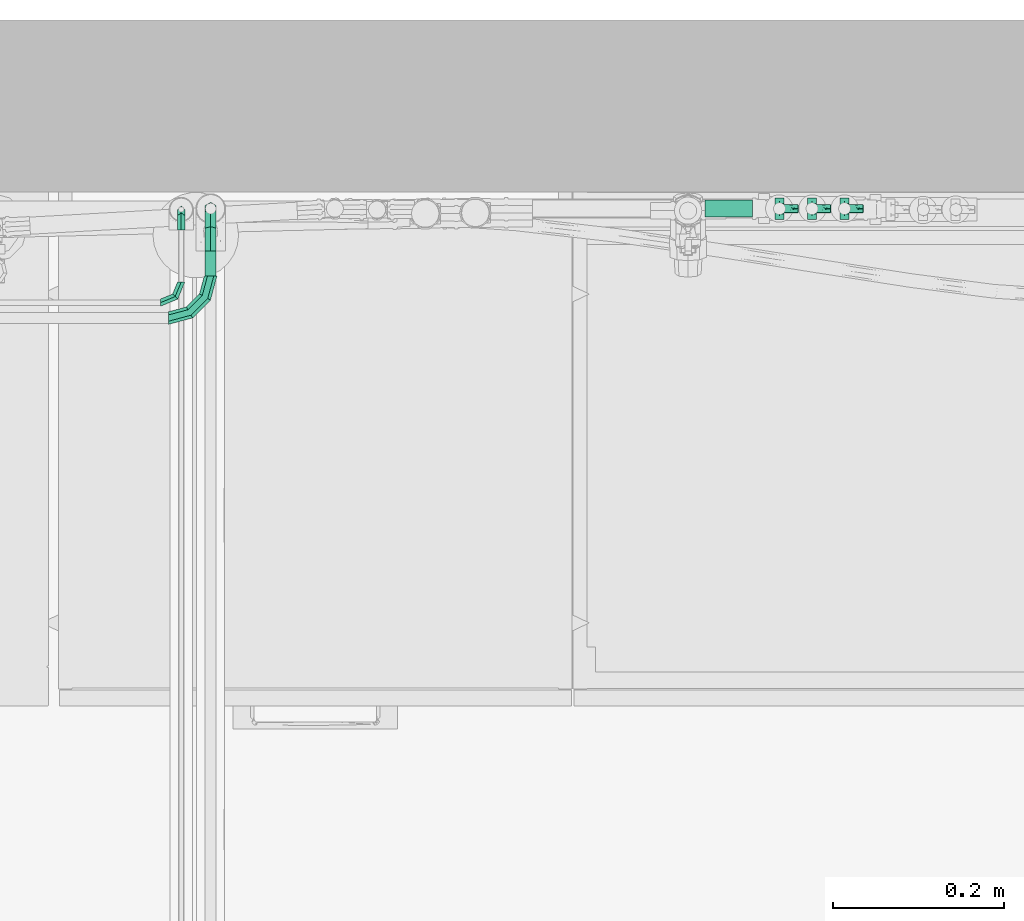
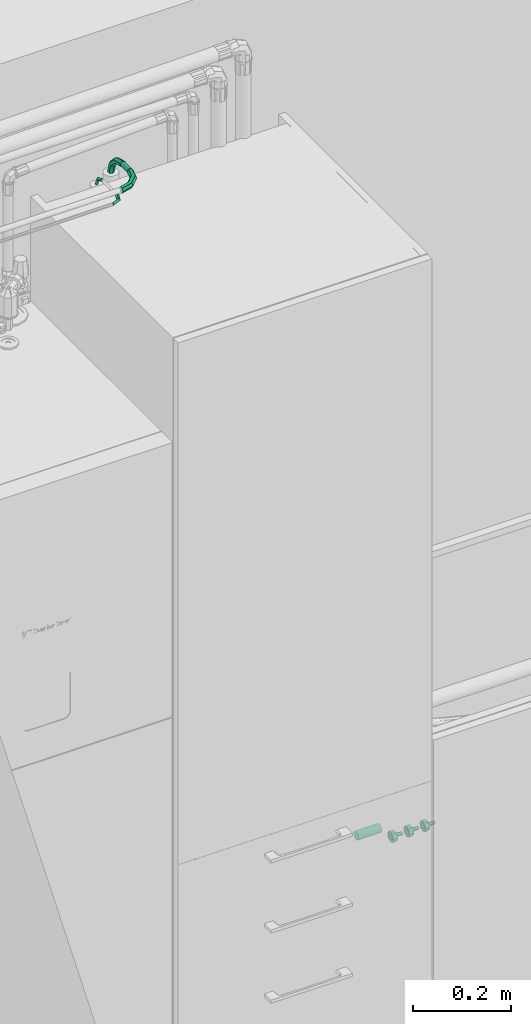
# One storey, part 22 of 30: 7 flow fittings, 2 flow segments.
"""IFC2X3 building model written with IfcOpenShell, lengths in metres."""

from ifc_helpers import new_model, entity, si_unit, converted_unit, derived_unit, direction, frame, origin, origin_2d_with_axis, place, context, subcontext, project, spatial, circle, extrude, faceted_brep, source, transform, mapped, material, type_object, type_shapes, element, save


model = new_model("IFC2X3")

# Units and contexts
model_context = context("Model", 3, precision=1e-05, world=origin(), true_north=direction((6.123031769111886e-17, 1.0)))
body_context = subcontext(model_context, "Body", "Model", "MODEL_VIEW")
ifc_project = project(units=[si_unit("LENGTHUNIT", "METRE"), si_unit("AREAUNIT", "SQUARE_METRE"), si_unit("VOLUMEUNIT", "CUBIC_METRE"), converted_unit("PLANEANGLEUNIT", "DEGREE", entity("IfcPlaneAngleMeasure", 0.017453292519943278), si_unit("PLANEANGLEUNIT", "RADIAN"), dimensions=[0, 0, 0, 0, 0, 0, 0]), si_unit("MASSUNIT", "GRAM", prefix="KILO"), derived_unit("MASSDENSITYUNIT", [(si_unit("MASSUNIT", "GRAM", prefix="KILO"), 1), (si_unit("LENGTHUNIT", "METRE"), -3)]), derived_unit("IONCONCENTRATIONUNIT", [(si_unit("MASSUNIT", "GRAM", prefix="KILO"), 1), (si_unit("LENGTHUNIT", "METRE"), -3)]), derived_unit("MOMENTOFINERTIAUNIT", [(si_unit("LENGTHUNIT", "METRE"), 4)]), si_unit("TIMEUNIT", "SECOND"), si_unit("FREQUENCYUNIT", "HERTZ"), si_unit("THERMODYNAMICTEMPERATUREUNIT", "DEGREE_CELSIUS"), derived_unit("THERMALTRANSMITTANCEUNIT", [(si_unit("MASSUNIT", "GRAM", prefix="KILO"), 1), (si_unit("THERMODYNAMICTEMPERATUREUNIT", "KELVIN"), -1), (si_unit("TIMEUNIT", "SECOND"), -3)]), derived_unit("THERMALCONDUCTANCEUNIT", [(si_unit("MASSUNIT", "GRAM", prefix="KILO"), 1), (si_unit("THERMODYNAMICTEMPERATUREUNIT", "KELVIN"), -1), (si_unit("TIMEUNIT", "SECOND"), -3), (si_unit("LENGTHUNIT", "METRE"), 1)]), derived_unit("VOLUMETRICFLOWRATEUNIT", [(si_unit("LENGTHUNIT", "METRE", prefix="DECI"), 3), (si_unit("TIMEUNIT", "SECOND"), -1)]), derived_unit("MASSFLOWRATEUNIT", [(si_unit("MASSUNIT", "GRAM", prefix="KILO"), 1), (si_unit("TIMEUNIT", "SECOND"), -1)]), derived_unit("ROTATIONALFREQUENCYUNIT", [(si_unit("TIMEUNIT", "SECOND"), -1)]), si_unit("ELECTRICCURRENTUNIT", "AMPERE"), si_unit("ELECTRICVOLTAGEUNIT", "VOLT"), si_unit("POWERUNIT", "WATT"), si_unit("FORCEUNIT", "NEWTON", prefix="KILO"), si_unit("ILLUMINANCEUNIT", "LUX"), si_unit("LUMINOUSFLUXUNIT", "LUMEN"), si_unit("LUMINOUSINTENSITYUNIT", "CANDELA"), si_unit("ENERGYUNIT", "JOULE"), derived_unit("USERDEFINED", [(si_unit("MASSUNIT", "GRAM", prefix="KILO"), -1), (si_unit("LENGTHUNIT", "METRE"), -2), (si_unit("TIMEUNIT", "SECOND"), 3), (si_unit("LUMINOUSFLUXUNIT", "LUMEN"), 1)]), derived_unit("USERDEFINED", [(si_unit("MASSUNIT", "GRAM", prefix="KILO"), 1), (si_unit("TIMEUNIT", "SECOND"), -3), (si_unit("LENGTHUNIT", "METRE"), 3), (si_unit("ELECTRICCURRENTUNIT", "AMPERE"), -2)]), derived_unit("SOUNDPOWERUNIT", [(si_unit("MASSUNIT", "GRAM", prefix="KILO"), 1), (si_unit("TIMEUNIT", "SECOND"), -3), (si_unit("LENGTHUNIT", "METRE"), 2)]), derived_unit("SOUNDPRESSUREUNIT", [(si_unit("MASSUNIT", "GRAM", prefix="KILO"), 1), (si_unit("LENGTHUNIT", "METRE"), -1), (si_unit("TIMEUNIT", "SECOND"), -2)]), derived_unit("LINEARVELOCITYUNIT", [(si_unit("LENGTHUNIT", "METRE"), 1), (si_unit("TIMEUNIT", "SECOND"), -1)]), si_unit("PRESSUREUNIT", "PASCAL"), derived_unit("USERDEFINED", [(si_unit("MASSUNIT", "GRAM", prefix="KILO"), 1), (si_unit("LENGTHUNIT", "METRE"), -2), (si_unit("TIMEUNIT", "SECOND"), -2)]), derived_unit("LINEARFORCEUNIT", [(si_unit("MASSUNIT", "GRAM", prefix="KILO"), 1), (si_unit("TIMEUNIT", "SECOND"), -2)]), derived_unit("PLANARFORCEUNIT", [(si_unit("MASSUNIT", "GRAM", prefix="KILO"), 1), (si_unit("LENGTHUNIT", "METRE"), -1), (si_unit("TIMEUNIT", "SECOND"), -2)]), derived_unit("SPECIFICHEATCAPACITYUNIT", [(si_unit("THERMODYNAMICTEMPERATUREUNIT", "KELVIN"), -1), (si_unit("LENGTHUNIT", "METRE"), 2), (si_unit("TIMEUNIT", "SECOND"), -2)]), derived_unit("HEATFLUXDENSITYUNIT", [(si_unit("MASSUNIT", "GRAM", prefix="KILO"), 1), (si_unit("TIMEUNIT", "SECOND"), -3)]), derived_unit("HEATINGVALUEUNIT", [(si_unit("LENGTHUNIT", "METRE"), 2), (si_unit("TIMEUNIT", "SECOND"), -2)]), derived_unit("VAPORPERMEABILITYUNIT", [(si_unit("LENGTHUNIT", "METRE"), -1), (si_unit("TIMEUNIT", "SECOND"), 1)]), derived_unit("DYNAMICVISCOSITYUNIT", [(si_unit("MASSUNIT", "GRAM", prefix="KILO"), 1), (si_unit("TIMEUNIT", "SECOND"), -1), (si_unit("LENGTHUNIT", "METRE"), -1)]), derived_unit("THERMALEXPANSIONCOEFFICIENTUNIT", [(si_unit("THERMODYNAMICTEMPERATUREUNIT", "KELVIN"), -1)]), derived_unit("MODULUSOFELASTICITYUNIT", [(si_unit("MASSUNIT", "GRAM", prefix="KILO"), 1), (si_unit("LENGTHUNIT", "METRE"), -1), (si_unit("TIMEUNIT", "SECOND"), -2)]), derived_unit("ISOTHERMALMOISTURECAPACITYUNIT", [(si_unit("MASSUNIT", "GRAM", prefix="KILO"), -1), (si_unit("LENGTHUNIT", "METRE"), 3)]), derived_unit("MOISTUREDIFFUSIVITYUNIT", [(si_unit("TIMEUNIT", "SECOND"), -1), (si_unit("LENGTHUNIT", "METRE"), 2)]), derived_unit("MASSPERLENGTHUNIT", [(si_unit("MASSUNIT", "GRAM", prefix="KILO"), 1), (si_unit("LENGTHUNIT", "METRE"), -1)]), derived_unit("THERMALRESISTANCEUNIT", [(si_unit("MASSUNIT", "GRAM", prefix="KILO"), -1), (si_unit("TIMEUNIT", "SECOND"), 3), (si_unit("THERMODYNAMICTEMPERATUREUNIT", "KELVIN"), 1)]), derived_unit("ACCELERATIONUNIT", [(si_unit("LENGTHUNIT", "METRE"), 1), (si_unit("TIMEUNIT", "SECOND"), -2)]), derived_unit("ANGULARVELOCITYUNIT", [(si_unit("TIMEUNIT", "SECOND"), -1), (si_unit("PLANEANGLEUNIT", "RADIAN"), 1)]), derived_unit("LINEARSTIFFNESSUNIT", [(si_unit("MASSUNIT", "GRAM", prefix="KILO"), 1), (si_unit("TIMEUNIT", "SECOND"), -2)]), derived_unit("WARPINGCONSTANTUNIT", [(si_unit("LENGTHUNIT", "METRE"), 6)]), derived_unit("LINEARMOMENTUNIT", [(si_unit("MASSUNIT", "GRAM", prefix="KILO"), 1), (si_unit("LENGTHUNIT", "METRE"), 1), (si_unit("TIMEUNIT", "SECOND"), -2)]), derived_unit("TORQUEUNIT", [(si_unit("MASSUNIT", "GRAM", prefix="KILO"), 1), (si_unit("LENGTHUNIT", "METRE"), 2), (si_unit("TIMEUNIT", "SECOND"), -2)])], contexts=[model_context])

# Site, building, storey
site_placement = place(None, origin())
site = spatial("IfcSite", under=ifc_project, at=site_placement, Name="Default", CompositionType="ELEMENT")
building_placement = place(site_placement, origin())
building = spatial("IfcBuilding", under=site, at=building_placement, CompositionType="ELEMENT")
storey_placement = place(building_placement, origin())
storey = spatial("IfcBuildingStorey", under=building, at=storey_placement, Name="Niveau 0", CompositionType="ELEMENT", Elevation=-1.949160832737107e-14)

# Flow fittings
ifc_material_1 = material(Name="Cuivre")
pipe_fitting_type_1 = type_object("IfcPipeFittingType", Name="Coude - tube frigo:Standard", PredefinedType="NOTDEFINED", material=ifc_material_1)
shared_shape_1 = source(origin(), body_context, "Body", "Brep", [
    faceted_brep([(-0.004088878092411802, 0.004088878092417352, 0.0), (-0.007058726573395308, 0.007058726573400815, -0.004200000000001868), (0.0, 0.024099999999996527, -0.004200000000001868), (0.0042000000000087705, 0.024099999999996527, 0.0), (-0.010028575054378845, 0.010028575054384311, 0.0), (-0.00419999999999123, 0.024099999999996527, 0.0), (-0.00705872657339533, 0.007058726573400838, 0.004199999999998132), (0.0, 0.024099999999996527, 0.004199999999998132), (-0.024099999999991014, -0.004200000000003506, 0.0), (-0.024099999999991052, 0.0, -0.004200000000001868), (-0.02409999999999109, 0.0041999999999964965, 0.0), (-0.024099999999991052, 0.0, 0.004199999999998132)], [[[0, 1, 2, 3]], [[1, 4, 5, 2]], [[4, 6, 7, 5]], [[6, 0, 3, 7]], [[8, 9, 1, 0]], [[9, 10, 4, 1]], [[10, 11, 6, 4]], [[11, 8, 0, 6]], [[3, 2, 5, 7]], [[11, 10, 9, 8]]]),
])
type_shapes(pipe_fitting_type_1, [shared_shape_1])
flow_fitting_1_placement = place(storey_placement, frame((-19.863164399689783, 2.7395264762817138, 2.162088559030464)))
element("IfcFlowFitting", 1, at=flow_fitting_1_placement, inside=storey, type_object=pipe_fitting_type_1, material=ifc_material_1, Name="Coude - tube frigo:Standard", ObjectType="Coude - tube frigo:Standard", context=body_context, shape_type="MappedRepresentation", body=[
    mapped(shared_shape_1, transform((0.0, 0.0, 0.0), scale=1.0)),
])
flow_fitting_2_placement = place(storey_placement, frame((-19.86316439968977, 2.848276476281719, 2.16208855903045), z_axis=(-1.0, 0.0, 0.0), x_axis=(0.0, 1.0, 0.0)))
element("IfcFlowFitting", 2, at=flow_fitting_2_placement, inside=storey, type_object=pipe_fitting_type_1, material=ifc_material_1, Name="Coude - tube frigo:Standard", ObjectType="Coude - tube frigo:Standard", context=body_context, shape_type="MappedRepresentation", body=[
    mapped(shared_shape_1, transform((0.0, 0.0, 0.0), scale=1.0)),
])

# Flow segments
pipe_segment_type_1 = type_object("IfcPipeSegmentType", Name="Canalisation:Cuivre Frigo", PredefinedType="NOTDEFINED")
flow_segment_1_placement = place(storey_placement, origin())
element("IfcFlowSegment", 3, at=flow_segment_1_placement, inside=storey, type_object=pipe_segment_type_1, Name="Canalisation:Cuivre Frigo", ObjectType="Canalisation:Cuivre Frigo", context=body_context, shape_type="SweptSolid", body=[
    extrude(circle(Radius=0.00635, at=origin_2d_with_axis()), frame((-19.82878943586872, 2.7707259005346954, 2.2051379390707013), z_axis=(0.0, 1.0, 0.0), x_axis=(-1.0, 0.0, 0.0)), (0.0, 0.0, 1.0), 0.02925057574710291),
])
pipe_segment_type_2 = type_object("IfcPipeSegmentType", Name="Canalisation:COMAP MULTISKIN - SKINPRESS PPSU", PredefinedType="NOTDEFINED")
flow_segment_2_placement = place(storey_placement, origin())
element("IfcFlowSegment", 4, at=flow_segment_2_placement, inside=storey, type_object=pipe_segment_type_2, Name="Canalisation:COMAP MULTISKIN - SKINPRESS PPSU", ObjectType="Canalisation:COMAP MULTISKIN - SKINPRESS PPSU", context=body_context, shape_type="SweptSolid", body=[
    extrude(circle(Radius=0.01, at=origin_2d_with_axis()), frame((-19.25124886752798, 2.8492961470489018, 0.3000000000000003), z_axis=(1.0, 0.0, 0.0), x_axis=(0.0, -1.0, 0.0)), (0.0, 0.0, 1.0), 0.055207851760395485),
])

# Flow fittings
ifc_material_2 = material(Name="Color RGB 202-154-058")
pipe_fitting_type_2 = type_object("IfcPipeFittingType", Name="SA_Connection Piece_MEPcontent_Valsir_Pexal BRASS_Kit with Nut_Shared:14 mm x 2 mm-1/2''", PredefinedType="NOTDEFINED", material=ifc_material_2)
shared_shape_2 = source(origin(), body_context, "Body", "Brep", [
    faceted_brep([(0.0, 0.012144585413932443, -0.0032541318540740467), (0.0, 0.0125345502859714, 0.0), (0.0, 0.006267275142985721, -0.010855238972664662), (0.0, 0.008890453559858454, -0.008890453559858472), (0.0, 0.010888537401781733, -0.00628650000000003), (0.0, 0.003882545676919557, 0.0119585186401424), (0.0, 0.0013113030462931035, 0.012504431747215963), (0.0, -0.0013169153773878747, 0.012503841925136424), (0.0, -0.0038867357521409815, 0.01195715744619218), (0.0, -0.0062672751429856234, 0.010855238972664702), (0.0, 0.006267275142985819, 0.010855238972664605), (0.0, -0.006267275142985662, -0.010855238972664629), (0.0, -0.012573, 0.0), (0.0, -0.01229757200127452, -0.002617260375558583), (0.0, -0.011484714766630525, -0.005116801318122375), (0.0, -0.010170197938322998, -0.007392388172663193), (0.0, -0.008411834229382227, -0.009344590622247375), (0.0, 0.00889045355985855, 0.008890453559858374), (0.0, 0.012144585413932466, 0.0032541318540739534), (0.0, 0.01088853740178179, 0.006286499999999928), (0.0, -0.0038867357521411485, -0.011957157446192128), (0.0, -0.001316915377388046, -0.012503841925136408), (0.0, 0.0013113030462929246, -0.012504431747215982), (0.0, 0.003882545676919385, -0.011958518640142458), (0.0, -0.008411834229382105, 0.009344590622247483), (0.0, -0.010170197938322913, 0.007392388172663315), (0.0, -0.01148471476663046, 0.005116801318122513), (0.0, -0.01229757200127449, 0.0026172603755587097), (0.004999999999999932, 0.006267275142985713, -0.010855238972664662), (0.004999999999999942, 0.012534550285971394, 0.0), (0.004999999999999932, 0.0062672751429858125, 0.010855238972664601), (0.00499999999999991, -0.006267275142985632, 0.010855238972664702), (0.0049999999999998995, -0.01253455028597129, 0.0), (0.00499999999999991, -0.006267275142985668, -0.010855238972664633), (0.0, -0.009223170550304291, 0.005324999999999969), (0.0, -0.00753068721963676, 0.007530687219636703), (0.0, -0.008149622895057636, 0.004705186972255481), (0.0, -0.009089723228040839, 0.0024355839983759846), (0.0, -0.010287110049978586, 0.0027564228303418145), (0.0, -0.006654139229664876, 0.006654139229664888), (0.0, -0.005325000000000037, 0.00922317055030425), (0.0, -0.004705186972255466, 0.008149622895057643), (0.0, -0.0024355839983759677, 0.009089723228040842), (0.0, -0.0027564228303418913, 0.010287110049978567), (0.0, 0.0, 0.009410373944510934), (0.0, 0.0, 0.010650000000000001), (0.0, 0.0024355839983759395, 0.009089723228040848), (0.0, 0.002756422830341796, 0.010287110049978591), (0.0, 0.004705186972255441, 0.008149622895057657), (0.0, 0.005324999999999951, 0.0092231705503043), (0.0, 0.006654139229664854, 0.006654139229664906), (0.0, 0.007530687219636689, 0.0075306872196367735), (0.0, 0.008149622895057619, 0.0047051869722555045), (0.0, 0.00922317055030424, 0.0053250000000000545), (0.0, 0.009089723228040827, 0.0024355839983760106), (0.0, 0.01028711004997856, 0.0027564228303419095), (0.0, 0.009410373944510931, 0.0), (0.0, 0.010649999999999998, 0.0), (0.0, 0.00908972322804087, -0.002435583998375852), (0.0, 0.010287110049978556, -0.0027564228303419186), (0.0, 0.008149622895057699, -0.004705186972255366), (0.0, 0.009223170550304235, -0.005325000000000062), (0.0, 0.006654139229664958, -0.006654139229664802), (0.0, 0.007530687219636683, -0.00753068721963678), (0.0, 0.004705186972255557, -0.00814962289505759), (0.0, 0.0053249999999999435, -0.009223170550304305), (0.0, 0.0027564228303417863, -0.010287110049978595), (0.0, 0.002435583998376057, -0.009089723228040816), (0.0, 0.0, -0.010650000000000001), (0.0, 0.0, -0.009410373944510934), (0.0, -0.0027564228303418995, -0.010287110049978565), (0.0, -0.0024355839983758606, -0.00908972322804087), (0.0, -0.005325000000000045, -0.009223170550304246), (0.0, -0.004705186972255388, -0.008149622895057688), (0.0, -0.0075306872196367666, -0.007530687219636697), (0.0, -0.006654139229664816, -0.006654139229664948), (0.0, -0.009223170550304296, -0.005324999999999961), (0.0, -0.008149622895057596, -0.004705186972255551), (0.0, -0.01028711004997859, -0.0027564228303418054), (0.0, -0.009089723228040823, -0.002435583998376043), (0.0, -0.010650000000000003, 0.0), (0.0, -0.009410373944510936, 0.0), (0.004999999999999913, -0.004156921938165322, -0.002400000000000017), (0.0049999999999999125, -0.004636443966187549, -0.001242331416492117), (0.0049999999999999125, -0.004800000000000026, 0.0), (0.0049999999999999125, -0.004636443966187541, 0.0012423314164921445), (0.004999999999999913, -0.0041569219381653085, 0.0024000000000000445), (0.004999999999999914, -0.003394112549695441, -0.0033941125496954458), (0.004999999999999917, -0.002400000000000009, -0.004156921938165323), (0.004999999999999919, -0.0012423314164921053, -0.004636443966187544), (0.004999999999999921, 0.0, -0.004800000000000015), (0.004999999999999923, 0.001242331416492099, -0.004636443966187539), (0.004999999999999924, 0.002400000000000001, -0.0041569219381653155), (0.004999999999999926, 0.00339411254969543, -0.003394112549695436), (0.004999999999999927, 0.0041569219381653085, -0.0024000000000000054), (0.004999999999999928, 0.004636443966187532, -0.0012423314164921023), (0.004999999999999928, 0.004800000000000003, 0.0), (0.004999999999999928, 0.004636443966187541, 0.0012423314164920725), (0.004999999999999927, 0.004156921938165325, 0.002399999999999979), (0.004999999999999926, 0.003394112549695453, 0.003394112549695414), (0.004999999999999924, 0.002400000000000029, 0.004156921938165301), (0.004999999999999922, 0.0012423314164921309, 0.004636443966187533), (0.0049999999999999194, 0.0, 0.004800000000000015), (0.004999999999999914, -0.003394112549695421, 0.003394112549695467), (0.004999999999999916, -0.002399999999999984, 0.004156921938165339), (0.004999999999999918, -0.001242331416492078, 0.004636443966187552), (0.021999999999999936, 0.0, 0.0), (0.021999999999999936, -0.004225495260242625, 0.0), (0.021999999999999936, -0.002112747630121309, -0.0021127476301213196), (0.021999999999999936, 0.0, -0.004225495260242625), (0.021999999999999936, 0.001462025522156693, -0.0027634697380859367), (0.021999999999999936, 0.004225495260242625, 0.0), (0.02199999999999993, 0.002112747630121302, 0.0021127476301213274), (0.021999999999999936, -0.0014620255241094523, 0.0027634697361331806), (0.021999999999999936, 0.0, 0.004225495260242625), (0.021425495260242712, 0.004800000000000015, 0.0), (0.021425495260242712, 0.002400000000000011, -0.0024000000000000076), (0.021425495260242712, 0.0, -0.004800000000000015), (0.021425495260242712, -0.0024000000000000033, -0.002400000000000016), (0.021425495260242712, -0.004800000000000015, 0.0), (0.021425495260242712, -0.0024000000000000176, 0.0024000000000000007), (0.021425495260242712, 0.0, 0.004800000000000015), (0.021425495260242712, 0.0023999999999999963, 0.0024000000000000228), (-0.0017731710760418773, 0.009410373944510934, 0.0), (-0.0017731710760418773, 0.004705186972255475, -0.008149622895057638), (-0.0017731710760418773, -0.004705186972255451, -0.008149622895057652), (-0.0017731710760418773, -0.009410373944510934, 0.0), (-0.0017731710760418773, -0.004705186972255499, 0.008149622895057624), (-0.0017731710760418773, 0.004705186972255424, 0.008149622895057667), (-0.005500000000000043, -0.0031499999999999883, -0.00545596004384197), (-0.005500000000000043, -0.0063, 0.0), (-0.005500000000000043, 0.0, 0.0), (-0.005500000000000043, 0.0031500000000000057, -0.00545596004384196), (-0.005500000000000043, -0.003150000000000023, 0.005455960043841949), (-0.005500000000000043, 0.00314999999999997, 0.005455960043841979), (-0.005500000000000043, 0.0063, 0.0), (-0.005500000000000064, -0.006286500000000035, -0.010888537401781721), (-0.005500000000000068, -0.008890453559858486, -0.00889045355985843), (-0.005500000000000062, -0.005324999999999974, -0.009223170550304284), (-0.005500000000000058, -0.002756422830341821, -0.010287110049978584), (-0.005500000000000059, -0.003254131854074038, -0.012144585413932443), (-0.0055000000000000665, -0.007530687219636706, -0.007530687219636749), (-0.005500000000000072, -0.010888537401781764, -0.006286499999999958), (-0.005500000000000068, -0.00922317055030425, -0.005325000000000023), (-0.005500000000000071, -0.010287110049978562, -0.0027564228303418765), (-0.005500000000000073, -0.012144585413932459, -0.0032541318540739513), (-0.005500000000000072, -0.010649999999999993, 0.0), (-0.005500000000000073, -0.012572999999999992, 0.0), (-0.005500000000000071, -0.010287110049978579, 0.00275642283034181), (-0.005500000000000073, -0.012144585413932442, 0.0032541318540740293), (-0.005500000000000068, -0.009223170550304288, 0.005324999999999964), (-0.005500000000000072, -0.010888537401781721, 0.006286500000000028), (-0.0055000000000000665, -0.007530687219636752, 0.007530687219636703), (-0.005500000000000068, -0.008890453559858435, 0.008890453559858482), (-0.005500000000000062, -0.0053250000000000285, 0.00922317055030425), (-0.005500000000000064, -0.00628649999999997, 0.010888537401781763), (-0.005500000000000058, -0.002756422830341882, 0.010287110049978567), (-0.005500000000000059, -0.003254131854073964, 0.012144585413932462), (-0.0055000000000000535, 0.0, 0.010650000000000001), (-0.0055000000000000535, 0.0, 0.012573), (-0.005500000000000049, 0.002756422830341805, 0.010287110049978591), (-0.005500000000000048, 0.003254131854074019, 0.012144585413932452), (-0.005500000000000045, 0.00532499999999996, 0.0092231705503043), (-0.005500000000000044, 0.00628650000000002, 0.010888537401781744), (-0.005500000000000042, 0.007530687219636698, 0.0075306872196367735), (-0.00550000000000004, 0.008890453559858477, 0.008890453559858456), (-0.005500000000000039, 0.00922317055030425, 0.0053250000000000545), (-0.005500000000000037, 0.010888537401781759, 0.006286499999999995), (-0.005500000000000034, 0.012144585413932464, 0.0032541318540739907), (-0.005500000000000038, 0.010287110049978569, 0.0027564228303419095), (-0.0055000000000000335, 0.01257300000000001, 0.0), (-0.005500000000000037, 0.010650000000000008, 0.0), (-0.005500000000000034, 0.012144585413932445, -0.0032541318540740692), (-0.005500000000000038, 0.010287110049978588, -0.0027564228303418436), (-0.005500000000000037, 0.01088853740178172, -0.0062865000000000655), (-0.005500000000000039, 0.009223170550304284, -0.005324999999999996), (-0.00550000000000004, 0.008890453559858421, -0.008890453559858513), (-0.005500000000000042, 0.007530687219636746, -0.007530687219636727), (-0.005500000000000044, 0.006286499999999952, -0.010888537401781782), (-0.005500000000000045, 0.005325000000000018, -0.009223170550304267), (-0.005500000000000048, 0.0032541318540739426, -0.012144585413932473), (-0.005500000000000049, 0.0027564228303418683, -0.010287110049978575), (-0.0055000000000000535, 0.0, -0.012573), (-0.0055000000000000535, 0.0, -0.010650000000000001), (-0.003958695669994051, 0.0031500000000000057, -0.00545596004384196), (-0.003958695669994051, 0.0063, 0.0), (-0.003958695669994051, -0.0031499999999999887, -0.00545596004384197), (-0.003958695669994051, -0.0063, 0.0), (-0.003958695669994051, -0.0031500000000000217, 0.00545596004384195), (-0.003958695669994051, 0.0031499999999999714, 0.00545596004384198)], [[[0, 1, 2, 3, 4]], [[5, 6, 7, 8, 9, 10]], [[11, 12, 13, 14, 15, 16]], [[17, 10, 1, 18, 19]], [[2, 11, 20, 21, 22, 23]], [[9, 24, 25, 26, 27, 12]], [[28, 2, 1, 29]], [[29, 1, 10, 30]], [[30, 10, 9, 31]], [[31, 9, 12]], [[12, 32, 31]], [[32, 12, 11]], [[11, 33, 32]], [[34, 35, 36]], [[34, 36, 37]], [[37, 38, 34]], [[36, 35, 39]], [[40, 39, 35]], [[41, 39, 40]], [[42, 41, 40]], [[42, 40, 43]], [[42, 43, 44]], [[44, 43, 45]], [[46, 44, 45]], [[46, 45, 47]], [[48, 46, 47]], [[48, 47, 49]], [[50, 48, 49]], [[49, 51, 50]], [[51, 52, 50]], [[51, 53, 52]], [[52, 53, 54]], [[55, 54, 53]], [[54, 55, 56]], [[56, 55, 57]], [[56, 57, 58]], [[58, 57, 59]], [[58, 59, 60]], [[61, 60, 59]], [[61, 62, 60]], [[62, 61, 63]], [[64, 62, 63]], [[65, 64, 63]], [[66, 64, 65]], [[67, 64, 66]], [[67, 66, 68]], [[69, 67, 68]], [[70, 69, 68]], [[70, 71, 69]], [[71, 70, 72]], [[73, 71, 72]], [[73, 72, 74]], [[73, 74, 75]], [[74, 76, 75]], [[75, 76, 77]], [[77, 76, 78]], [[78, 79, 77]], [[80, 79, 78]], [[38, 81, 80]], [[80, 81, 79]], [[38, 37, 81]], [[33, 11, 2, 28]], [[32, 33, 82]], [[32, 82, 83]], [[84, 32, 83]], [[32, 84, 85]], [[86, 32, 85]], [[32, 86, 31]], [[82, 33, 87]], [[88, 87, 33]], [[89, 88, 33]], [[90, 89, 33]], [[33, 28, 90]], [[91, 90, 28]], [[92, 91, 28]], [[93, 92, 28]], [[28, 94, 93]], [[29, 94, 28]], [[95, 94, 29]], [[29, 96, 95]], [[29, 97, 96]], [[97, 29, 98]], [[30, 98, 29]], [[98, 30, 99]], [[100, 99, 30]], [[100, 30, 101]], [[102, 101, 30]], [[102, 30, 31]], [[86, 103, 31]], [[103, 104, 31]], [[104, 105, 31]], [[31, 105, 102]], [[106, 107, 108]], [[106, 108, 109]], [[106, 109, 110]], [[106, 110, 111]], [[106, 111, 112]], [[106, 113, 107]], [[106, 114, 113]], [[106, 112, 114]], [[96, 115, 95]], [[93, 115, 116, 117]], [[115, 94, 95]], [[93, 94, 115]], [[91, 92, 117]], [[93, 117, 92]], [[117, 90, 91]], [[90, 117, 89]], [[117, 87, 88]], [[88, 89, 117]], [[87, 117, 118, 119]], [[82, 87, 119]], [[84, 83, 119]], [[82, 119, 83]], [[84, 119, 85]], [[103, 119, 120, 121]], [[119, 86, 85]], [[103, 86, 119]], [[105, 104, 121]], [[103, 121, 104]], [[121, 102, 105]], [[102, 121, 101]], [[121, 99, 100]], [[100, 101, 121]], [[99, 121, 122, 115]], [[98, 99, 115]], [[96, 97, 115]], [[98, 115, 97]], [[123, 56, 58]], [[58, 60, 123]], [[62, 124, 60]], [[60, 124, 123]], [[124, 62, 64]], [[124, 67, 69]], [[67, 124, 64]], [[125, 69, 71]], [[71, 73, 125]], [[75, 125, 73]], [[125, 77, 126]], [[77, 125, 75]], [[79, 81, 126]], [[79, 126, 77]], [[69, 125, 124]], [[126, 81, 37]], [[37, 36, 126]], [[39, 127, 36]], [[36, 127, 126]], [[127, 39, 41]], [[127, 42, 44]], [[42, 127, 41]], [[128, 44, 46]], [[46, 48, 128]], [[50, 128, 48]], [[128, 52, 123]], [[52, 128, 50]], [[54, 56, 123]], [[54, 123, 52]], [[44, 128, 127]], [[129, 130, 131]], [[131, 132, 129]], [[130, 133, 131]], [[134, 131, 133]], [[131, 134, 135]], [[131, 135, 132]], [[129, 130, 131]], [[131, 132, 129]], [[130, 133, 131]], [[134, 131, 133]], [[131, 134, 135]], [[131, 135, 132]], [[136, 137, 138]], [[136, 138, 139]], [[139, 140, 136]], [[138, 137, 141]], [[142, 141, 137]], [[143, 141, 142]], [[144, 143, 142]], [[144, 142, 145]], [[144, 145, 146]], [[146, 145, 147]], [[148, 146, 147]], [[148, 147, 149]], [[150, 148, 149]], [[150, 149, 151]], [[152, 150, 151]], [[151, 153, 152]], [[153, 154, 152]], [[153, 155, 154]], [[154, 155, 156]], [[157, 156, 155]], [[156, 157, 158]], [[158, 157, 159]], [[158, 159, 160]], [[160, 159, 161]], [[160, 161, 162]], [[163, 162, 161]], [[163, 164, 162]], [[164, 163, 165]], [[166, 164, 165]], [[167, 166, 165]], [[168, 166, 167]], [[169, 166, 168]], [[169, 168, 170]], [[171, 169, 170]], [[172, 171, 170]], [[172, 173, 171]], [[173, 172, 174]], [[175, 173, 174]], [[175, 174, 176]], [[175, 176, 177]], [[176, 178, 177]], [[177, 178, 179]], [[179, 178, 180]], [[180, 181, 179]], [[182, 181, 180]], [[140, 183, 182]], [[182, 183, 181]], [[140, 139, 183]], [[117, 116, 115, 111, 110, 109]], [[118, 117, 109, 108, 107, 119]], [[121, 120, 119, 107, 113, 114]], [[122, 121, 114, 112, 111, 115]], [[123, 124, 184, 185]], [[124, 125, 186, 184]], [[125, 126, 187, 186]], [[126, 127, 188, 187]], [[127, 128, 189, 188]], [[128, 123, 185, 189]], [[185, 184, 132, 135]], [[184, 186, 129, 132]], [[186, 187, 130, 129]], [[187, 188, 133, 130]], [[188, 189, 134, 133]], [[189, 185, 135, 134]], [[57, 171, 173, 59]], [[59, 173, 175, 61]], [[65, 63, 177, 179]], [[175, 177, 63, 61]], [[66, 65, 179, 181]], [[183, 68, 66, 181]], [[70, 139, 138, 72]], [[72, 138, 141, 74]], [[78, 76, 143, 144]], [[141, 143, 76, 74]], [[80, 78, 144, 146]], [[70, 68, 183, 139]], [[80, 146, 148, 38]], [[38, 148, 150, 34]], [[40, 35, 152, 154]], [[150, 152, 35, 34]], [[43, 40, 154, 156]], [[158, 45, 43, 156]], [[47, 160, 162, 49]], [[49, 162, 164, 51]], [[55, 53, 166, 169]], [[164, 166, 53, 51]], [[57, 55, 169, 171]], [[47, 45, 158, 160]], [[168, 1, 170]], [[167, 19, 18, 168]], [[17, 165, 163]], [[163, 161, 5]], [[167, 165, 17, 19]], [[159, 6, 161]], [[18, 1, 168]], [[5, 10, 163]], [[17, 163, 10]], [[6, 5, 161]], [[159, 7, 6]], [[155, 8, 157]], [[153, 24, 155]], [[26, 151, 149]], [[149, 147, 27]], [[153, 151, 25]], [[12, 27, 147]], [[155, 9, 8]], [[8, 7, 157]], [[26, 25, 151]], [[24, 153, 25]], [[24, 9, 155]], [[27, 26, 149]], [[157, 7, 159]], [[145, 13, 147]], [[142, 14, 145]], [[16, 137, 136]], [[136, 140, 20]], [[21, 140, 182]], [[142, 137, 15]], [[21, 20, 140]], [[145, 14, 13]], [[13, 12, 147]], [[11, 16, 136]], [[15, 137, 16]], [[15, 14, 142]], [[20, 11, 136]], [[180, 22, 182]], [[178, 23, 180]], [[3, 176, 174, 4]], [[174, 172, 0, 4]], [[178, 176, 2]], [[170, 0, 172]], [[178, 2, 23]], [[23, 22, 180]], [[2, 176, 3]], [[170, 1, 0]], [[182, 22, 21]]]),
])
type_shapes(pipe_fitting_type_2, [shared_shape_2])
for number, where in (
    (5, (-19.126541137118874, 2.8492264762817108, 0.2685000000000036)),
    (6, (-19.088541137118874, 2.8492264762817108, 0.2685000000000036)),
    (7, (-19.164541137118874, 2.8492264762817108, 0.2685000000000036)),
):
    element("IfcFlowFitting", number, at=place(storey_placement, frame(where)), inside=storey, type_object=pipe_fitting_type_2, material=ifc_material_2, Name="SA_Connection Piece_MEPcontent_Valsir_Pexal BRASS_Kit with Nut_Shared:14 mm x 2 mm-1/2''", ObjectType="SA_Connection Piece_MEPcontent_Valsir_Pexal BRASS_Kit with Nut_Shared:14 mm x 2 mm-1/2''", context=body_context, shape_type="MappedRepresentation", body=[
        mapped(shared_shape_2, transform((0.0, 0.0, 0.0), scale=1.0)),
    ])
pipe_fitting_type_3 = type_object("IfcPipeFittingType", Name="Coude - tube frigo:Standard", PredefinedType="NOTDEFINED", material=ifc_material_1)
shared_shape_3 = source(origin(), body_context, "Body", "Brep", [
    faceted_brep([(-0.00023966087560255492, 0.02097499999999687, 0.0), (-0.003422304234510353, 0.022812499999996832, -0.006365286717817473), (0.003675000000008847, 0.049299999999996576, -0.006365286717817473), (0.0073500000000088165, 0.049299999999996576, 0.0), (-0.009787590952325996, 0.02648749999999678, -0.006365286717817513), (-0.003674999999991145, 0.049299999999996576, -0.006365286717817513), (-0.012970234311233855, 0.028324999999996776, 0.0), (-0.007349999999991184, 0.049299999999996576, 0.0), (-0.00978759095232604, 0.02648749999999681, 0.00636528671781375), (-0.003674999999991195, 0.049299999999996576, 0.00636528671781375), (-0.003422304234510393, 0.022812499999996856, 0.0063652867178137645), (0.0036750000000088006, 0.049299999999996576, 0.0063652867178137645), (-0.020974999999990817, 0.00023966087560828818, 0.0), (-0.022812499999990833, 0.003422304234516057, -0.006365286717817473), (-0.02648749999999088, 0.009787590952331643, -0.006365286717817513), (-0.028324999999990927, 0.012970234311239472, 0.0), (-0.026487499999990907, 0.009787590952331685, 0.00636528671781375), (-0.022812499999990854, 0.003422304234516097, 0.0063652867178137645), (-0.04929999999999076, -0.007350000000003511, 0.0), (-0.049299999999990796, -0.0036750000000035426, -0.006365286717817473), (-0.049299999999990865, 0.0036749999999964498, -0.006365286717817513), (-0.0492999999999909, 0.007349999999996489, 0.0), (-0.049299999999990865, 0.0036749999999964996, 0.00636528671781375), (-0.049299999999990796, -0.0036750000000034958, 0.0063652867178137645)], [[[0, 1, 2, 3]], [[1, 4, 5, 2]], [[4, 6, 7, 5]], [[6, 8, 9, 7]], [[8, 10, 11, 9]], [[10, 0, 3, 11]], [[12, 13, 1, 0]], [[13, 14, 4, 1]], [[14, 15, 6, 4]], [[15, 16, 8, 6]], [[16, 17, 10, 8]], [[17, 12, 0, 10]], [[18, 19, 13, 12]], [[19, 20, 14, 13]], [[20, 21, 15, 14]], [[21, 22, 16, 15]], [[22, 23, 17, 16]], [[23, 18, 12, 17]], [[3, 2, 5, 7, 9, 11]], [[23, 22, 21, 20, 19, 18]]]),
])
type_shapes(pipe_fitting_type_3, [shared_shape_3])
flow_fitting_3_placement = place(storey_placement, frame((-19.82878943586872, 2.849276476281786, 2.2051379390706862), z_axis=(1.0, 0.0, 0.0), x_axis=(0.0, 0.0, 1.0)))
element("IfcFlowFitting", 8, at=flow_fitting_3_placement, inside=storey, type_object=pipe_fitting_type_3, material=ifc_material_1, Name="Coude - tube frigo:Standard", ObjectType="Coude - tube frigo:Standard", context=body_context, shape_type="MappedRepresentation", body=[
    mapped(shared_shape_3, transform((0.0, 0.0, 0.0), scale=1.0)),
])
flow_fitting_4_placement = place(storey_placement, frame((-19.828789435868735, 2.7214259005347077, 2.205137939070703)))
element("IfcFlowFitting", 9, at=flow_fitting_4_placement, inside=storey, type_object=pipe_fitting_type_3, material=ifc_material_1, Name="Coude - tube frigo:Standard", ObjectType="Coude - tube frigo:Standard", context=body_context, shape_type="MappedRepresentation", body=[
    mapped(shared_shape_3, transform((0.0, 0.0, 0.0), scale=1.0)),
])

save(model, "model.ifc")
